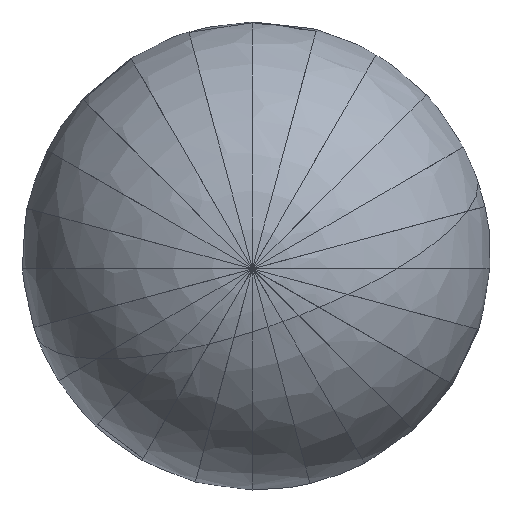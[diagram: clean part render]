
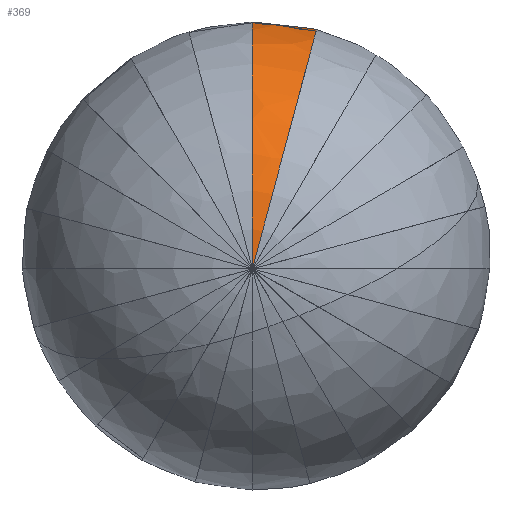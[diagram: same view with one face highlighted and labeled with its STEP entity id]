
A CAD part, front view. The second image highlights one B-rep face of the part: STEP entity #369.
In plain terms, the highlighted spherical face has radius 150 mm.
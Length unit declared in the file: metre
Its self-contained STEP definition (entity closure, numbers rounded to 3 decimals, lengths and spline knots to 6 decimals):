
#369=ADVANCED_FACE('1:1227',(#786),#787,.T.);
#786=FACE_OUTER_BOUND('',#1315,.T.);
#787=SPHERICAL_SURFACE('',#1316,0.15);
#1315=EDGE_LOOP('',(#1960,#1961,#1962));
#1316=AXIS2_PLACEMENT_3D('',#1963,#1964,#1965);
#1960=ORIENTED_EDGE('',*,*,#2644,.T.);
#1961=ORIENTED_EDGE('',*,*,#2649,.T.);
#1962=ORIENTED_EDGE('',*,*,#2651,.F.);
#1963=CARTESIAN_POINT('',(0.002523,-0.664757,0.014366));
#1964=DIRECTION('',(0.221,0.898,0.381));
#1965=DIRECTION('',(0.921,-0.321,0.221));
#2644=EDGE_CURVE('',#3070,#3071,#3072,.T.);
#2649=EDGE_CURVE('1:1248',#3071,#3077,#3079,.T.);
#2651=EDGE_CURVE('1:826',#3070,#3077,#3081,.T.);
#3070=VERTEX_POINT('',#3589);
#3071=VERTEX_POINT('',#3590);
#3072=CIRCLE('',#3591,0.15);
#3077=VERTEX_POINT('',#3596);
#3079=CIRCLE('',#3599,0.149979);
#3081=CIRCLE('',#3601,0.15);
#3589=CARTESIAN_POINT('',(0.016171,-0.524716,0.066351));
#3590=CARTESIAN_POINT('',(0.0,-0.522336,0.061376));
#3591=AXIS2_PLACEMENT_3D('',#4137,#4138,#4139);
#3596=CARTESIAN_POINT('',(0.0,-0.814502,0.006));
#3599=AXIS2_PLACEMENT_3D('',#4147,#4148,#4149);
#3601=AXIS2_PLACEMENT_3D('',#4150,#4151,#4152);
#4137=CARTESIAN_POINT('',(0.002523,-0.664757,0.014366));
#4138=DIRECTION('',(-0.321,-0.302,0.898));
#4139=DIRECTION('',(0.0,0.948,0.319));
#4147=CARTESIAN_POINT('',(0.0,-0.664757,0.014366));
#4148=DIRECTION('',(1.0,0.0,-0.0));
#4149=DIRECTION('',(0.0,0.0,1.0));
#4150=CARTESIAN_POINT('',(0.00226,-0.664757,0.014436));
#4151=DIRECTION('',(0.966,0.0,-0.259));
#4152=DIRECTION('',(0.259,0.0,0.966));
